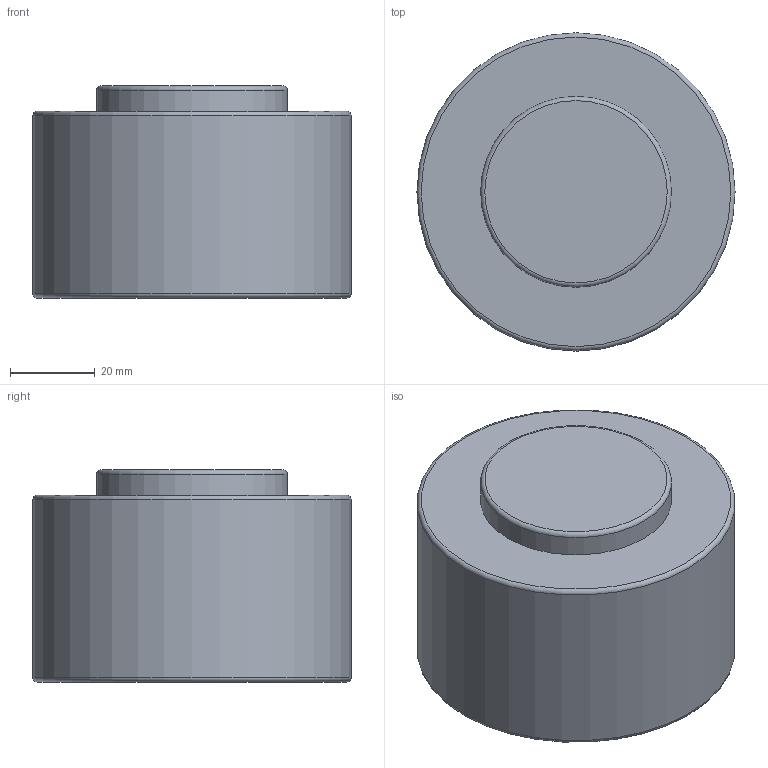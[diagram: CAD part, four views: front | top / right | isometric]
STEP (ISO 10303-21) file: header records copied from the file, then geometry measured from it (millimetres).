
FILE_DESCRIPTION(/* description */ (''),/* implementation_level */ '2;1');
FILE_NAME(/* name */ 'NV5-SMLX.75x5.stp',/* time_stamp */ '2018-08-31T16:08:29+02:00',/* author */ (''),/* organization */ (''),/* preprocessor_version */ 'ST-DEVELOPER v16',/* originating_system */ 'SIEMENS PLM Software NX 10.0',/* authorisation */ '');
FILE_SCHEMA (('AUTOMOTIVE_DESIGN { 1 0 10303 214 3 1 1 1 }'));
Length unit declared in the file: millimetre
Products named in the file (1): NV5-SMLX.75x5
Bounding box: 75 x 75 x 50 mm (x, y, z)
Volume: 202045.7 mm3; surface area: 20448 mm2
Topology: 1 solids, 1 shells, 10 faces, 18 edges, 11 vertices
Faces by surface type: cylinder 3, torus 3, plane 3, cone 1
Full cylindrical faces by diameter (mm): 10.3 x1, 45 x1, 75 x1
Entity records: 222 total; most frequent: DIRECTION 40, CARTESIAN_POINT 30, AXIS2_PLACEMENT_3D 20, FACE_BOUND 18, EDGE_LOOP 18, ORIENTED_EDGE 18, ADVANCED_FACE 10, VERTEX_POINT 10
